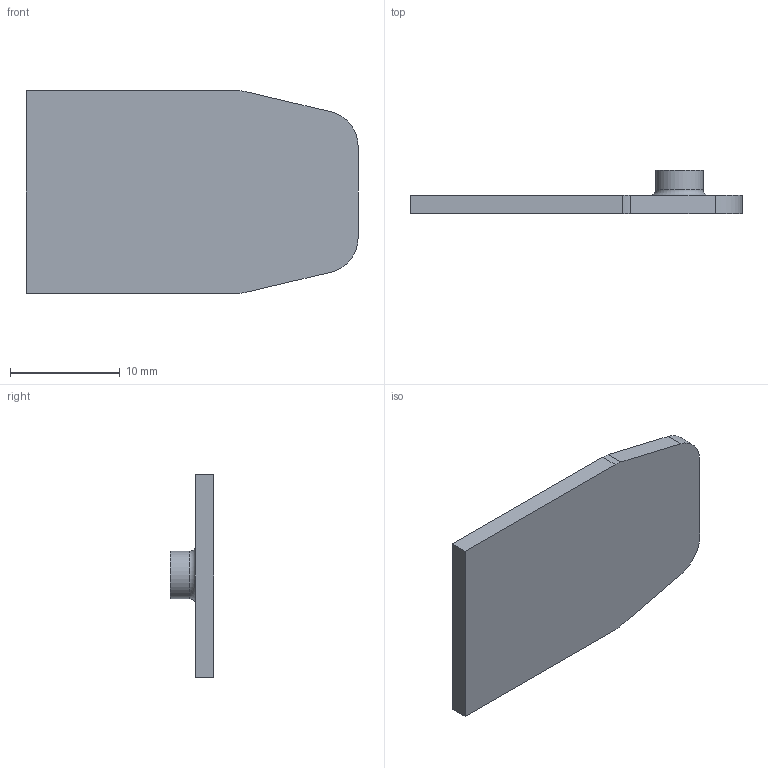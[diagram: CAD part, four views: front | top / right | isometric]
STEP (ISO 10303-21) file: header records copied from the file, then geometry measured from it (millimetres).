
FILE_DESCRIPTION(/* description */ (''),/* implementation_level */ '2;1');
FILE_NAME(/* name */ 'C:\Users\johne\Desktop\Menendez Mag 17\STEP\Menendez Mag Locking Tab V1.1.stp',/* time_stamp */ '2019-06-27T23:09:43-05:00',/* author */ ('johne'),/* organization */ (''),/* preprocessor_version */ 'ST-DEVELOPER v16.13',/* originating_system */ 'Autodesk Inventor 2018',/* authorisation */ '');
FILE_SCHEMA (('AUTOMOTIVE_DESIGN { 1 0 10303 214 3 1 1 }'));
Length unit declared in the file: inch
Products named in the file (1): Menendez Mag Follower V1.11
Bounding box: 30.3 x 3.94 x 18.47 mm (x, y, z)
Volume: 910.5 mm3; surface area: 1240.8 mm2
Topology: 1 solids, 1 shells, 15 faces, 35 edges, 23 vertices
Faces by surface type: plane 9, cylinder 5, torus 1
Full cylindrical faces by diameter (mm): 4.318 x1
Entity records: 463 total; most frequent: DIRECTION 76, CARTESIAN_POINT 72, ORIENTED_EDGE 66, EDGE_CURVE 33, AXIS2_PLACEMENT_3D 27, VERTEX_POINT 23, LINE 22, VECTOR 22
